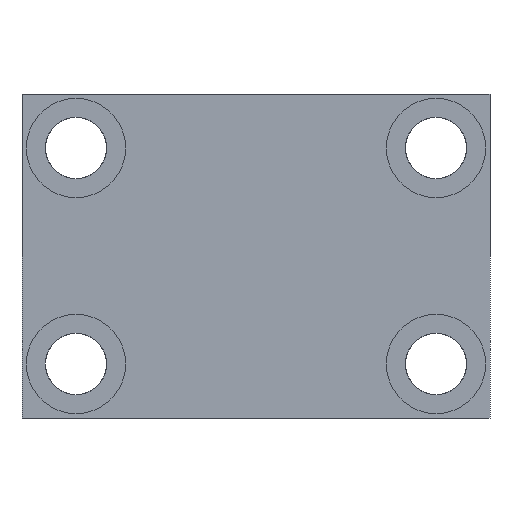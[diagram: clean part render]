
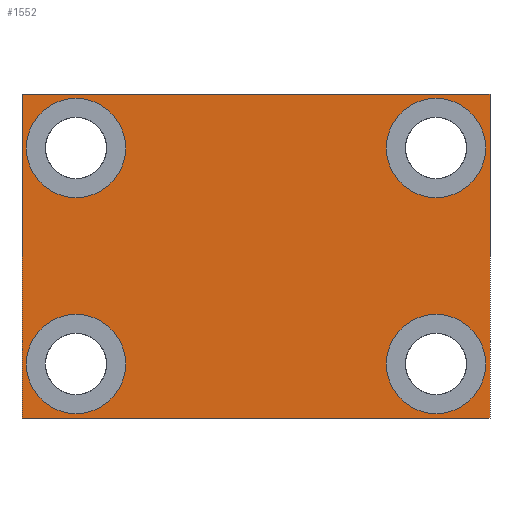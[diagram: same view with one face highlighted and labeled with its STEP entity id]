
A CAD part, front view. The second image highlights one B-rep face of the part: STEP entity #1552.
In plain terms, the highlighted planar face has unit normal (0, -1, 0).
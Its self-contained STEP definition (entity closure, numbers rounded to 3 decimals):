
#3 = DIRECTION ( 'NONE',  ( 0., -1., 0. ) ) ;
#11 = CARTESIAN_POINT ( 'NONE',  ( 25., 0., 15. ) ) ;
#22 = AXIS2_PLACEMENT_3D ( 'NONE', #2790, #2773, #2762 ) ;
#29 = DIRECTION ( 'NONE',  ( 0., 0., -1. ) ) ;
#33 = DIRECTION ( 'NONE',  ( 0., -1., 0. ) ) ;
#51 = CARTESIAN_POINT ( 'NONE',  ( 25., 0., -15. ) ) ;
#54 = AXIS2_PLACEMENT_3D ( 'NONE', #1746, #1783, #1704 ) ;
#114 = DIRECTION ( 'NONE',  ( 0., 0., -1. ) ) ;
#117 = AXIS2_PLACEMENT_3D ( 'NONE', #2748, #2620, #2618 ) ;
#127 = DIRECTION ( 'NONE',  ( 0., -1., 0. ) ) ;
#130 = CARTESIAN_POINT ( 'NONE',  ( -25., 0., -15. ) ) ;
#184 = CARTESIAN_POINT ( 'NONE',  ( -32.5, 0., 22.5 ) ) ;
#189 = DIRECTION ( 'NONE',  ( 1., 0., 0. ) ) ;
#257 = CARTESIAN_POINT ( 'NONE',  ( -32.5, 0., -22.5 ) ) ;
#273 = VERTEX_POINT ( 'NONE', #1114 ) ;
#286 = VERTEX_POINT ( 'NONE', #1127 ) ;
#290 = CARTESIAN_POINT ( 'NONE',  ( -32.5, 0., -22.5 ) ) ;
#297 = DIRECTION ( 'NONE',  ( 0., 0., 1. ) ) ;
#430 = CARTESIAN_POINT ( 'NONE',  ( -25., 0., 8.1 ) ) ;
#464 = DIRECTION ( 'NONE',  ( -1., 0., 0. ) ) ;
#504 = CARTESIAN_POINT ( 'NONE',  ( -25., 0., -21.9 ) ) ;
#519 = ORIENTED_EDGE ( 'NONE', *, *, #2549, .F. ) ;
#540 = CARTESIAN_POINT ( 'NONE',  ( -32.5, 0., -22.5 ) ) ;
#594 = ORIENTED_EDGE ( 'NONE', *, *, #1513, .F. ) ;
#597 = CARTESIAN_POINT ( 'NONE',  ( 32.5, 0., -22.5 ) ) ;
#612 = DIRECTION ( 'NONE',  ( 0., 0., -1. ) ) ;
#629 = VERTEX_POINT ( 'NONE', #2022 ) ;
#802 = CARTESIAN_POINT ( 'NONE',  ( 25., 0., -21.9 ) ) ;
#810 = CIRCLE ( 'NONE', #2033, 6.9 ) ;
#1114 = CARTESIAN_POINT ( 'NONE',  ( 32.5, 0., 22.5 ) ) ;
#1127 = CARTESIAN_POINT ( 'NONE',  ( 25., 0., 21.9 ) ) ;
#1197 = ORIENTED_EDGE ( 'NONE', *, *, #2194, .F. ) ;
#1234 = ORIENTED_EDGE ( 'NONE', *, *, #2393, .F. ) ;
#1312 = CARTESIAN_POINT ( 'NONE',  ( 25., 0., 8.1 ) ) ;
#1323 = AXIS2_PLACEMENT_3D ( 'NONE', #3239, #3237, #3233 ) ;
#1460 = AXIS2_PLACEMENT_3D ( 'NONE', #11, #3, #3468 ) ;
#1478 = VERTEX_POINT ( 'NONE', #2989 ) ;
#1482 = ORIENTED_EDGE ( 'NONE', *, *, #2133, .F. ) ;
#1513 = EDGE_CURVE ( 'NONE', #3131, #2873, #2365, .T. ) ;
#1552 = ADVANCED_FACE ( 'NONE', ( #2203, #2161, #2156, #2152, #2109 ), #2678, .F. ) ;
#1704 = DIRECTION ( 'NONE',  ( 0., 0., -1. ) ) ;
#1746 = CARTESIAN_POINT ( 'NONE',  ( -25., 0., -15. ) ) ;
#1763 = EDGE_LOOP ( 'NONE', ( #3274, #1197 ) ) ;
#1783 = DIRECTION ( 'NONE',  ( 0., -1., 0. ) ) ;
#1858 = ORIENTED_EDGE ( 'NONE', *, *, #1956, .F. ) ;
#1885 = CIRCLE ( 'NONE', #54, 6.9 ) ;
#1943 = DIRECTION ( 'NONE',  ( 0., 0., -1. ) ) ;
#1956 = EDGE_CURVE ( 'NONE', #273, #3114, #3219, .T. ) ;
#1957 = DIRECTION ( 'NONE',  ( 0., -1., 0. ) ) ;
#1963 = CARTESIAN_POINT ( 'NONE',  ( 25., 0., 15. ) ) ;
#1987 = VERTEX_POINT ( 'NONE', #504 ) ;
#1997 = EDGE_CURVE ( 'NONE', #3114, #3288, #3039, .T. ) ;
#2022 = CARTESIAN_POINT ( 'NONE',  ( -25., 0., -8.1 ) ) ;
#2033 = AXIS2_PLACEMENT_3D ( 'NONE', #2816, #2808, #2796 ) ;
#2040 = CARTESIAN_POINT ( 'NONE',  ( -32.5, 0., 22.5 ) ) ;
#2041 = EDGE_CURVE ( 'NONE', #3288, #3287, #2887, .T. ) ;
#2084 = EDGE_CURVE ( 'NONE', #3287, #273, #2926, .T. ) ;
#2096 = EDGE_CURVE ( 'NONE', #1987, #629, #2818, .T. ) ;
#2109 = FACE_OUTER_BOUND ( 'NONE', #2444, .T. ) ;
#2123 = EDGE_CURVE ( 'NONE', #2873, #3131, #2451, .T. ) ;
#2126 = EDGE_CURVE ( 'NONE', #3420, #286, #2501, .T. ) ;
#2133 = EDGE_CURVE ( 'NONE', #2971, #1478, #2375, .T. ) ;
#2152 = FACE_BOUND ( 'NONE', #2646, .T. ) ;
#2156 = FACE_BOUND ( 'NONE', #2685, .T. ) ;
#2161 = FACE_BOUND ( 'NONE', #2679, .T. ) ;
#2194 = EDGE_CURVE ( 'NONE', #629, #1987, #1885, .T. ) ;
#2203 = FACE_BOUND ( 'NONE', #1763, .T. ) ;
#2271 = ORIENTED_EDGE ( 'NONE', *, *, #2084, .F. ) ;
#2281 = ORIENTED_EDGE ( 'NONE', *, *, #2041, .F. ) ;
#2365 = CIRCLE ( 'NONE', #22, 6.9 ) ;
#2375 = CIRCLE ( 'NONE', #1323, 6.9 ) ;
#2393 = EDGE_CURVE ( 'NONE', #1478, #2971, #810, .T. ) ;
#2419 = ORIENTED_EDGE ( 'NONE', *, *, #2126, .F. ) ;
#2444 = EDGE_LOOP ( 'NONE', ( #1858, #2271, #2281, #3303 ) ) ;
#2451 = CIRCLE ( 'NONE', #3180, 6.9 ) ;
#2501 = CIRCLE ( 'NONE', #1460, 6.9 ) ;
#2521 = CARTESIAN_POINT ( 'NONE',  ( 25., 0., -8.1 ) ) ;
#2549 = EDGE_CURVE ( 'NONE', #286, #3420, #2793, .T. ) ;
#2618 = DIRECTION ( 'NONE',  ( 0., 0., 1. ) ) ;
#2620 = DIRECTION ( 'NONE',  ( 0., 1., 0. ) ) ;
#2646 = EDGE_LOOP ( 'NONE', ( #1482, #1234 ) ) ;
#2650 = VECTOR ( 'NONE', #189, 1000. ) ;
#2678 = PLANE ( 'NONE',  #117 ) ;
#2679 = EDGE_LOOP ( 'NONE', ( #3221, #594 ) ) ;
#2685 = EDGE_LOOP ( 'NONE', ( #2419, #519 ) ) ;
#2748 = CARTESIAN_POINT ( 'NONE',  ( 0., 0., 0. ) ) ;
#2762 = DIRECTION ( 'NONE',  ( 0., 0., -1. ) ) ;
#2765 = AXIS2_PLACEMENT_3D ( 'NONE', #1963, #1957, #1943 ) ;
#2773 = DIRECTION ( 'NONE',  ( 0., -1., 0. ) ) ;
#2790 = CARTESIAN_POINT ( 'NONE',  ( 25., 0., -15. ) ) ;
#2793 = CIRCLE ( 'NONE', #2765, 6.9 ) ;
#2796 = DIRECTION ( 'NONE',  ( 0., 0., -1. ) ) ;
#2808 = DIRECTION ( 'NONE',  ( 0., -1., 0. ) ) ;
#2816 = CARTESIAN_POINT ( 'NONE',  ( -25., 0., 15. ) ) ;
#2818 = CIRCLE ( 'NONE', #2875, 6.9 ) ;
#2852 = VECTOR ( 'NONE', #297, 1000. ) ;
#2873 = VERTEX_POINT ( 'NONE', #802 ) ;
#2875 = AXIS2_PLACEMENT_3D ( 'NONE', #130, #127, #114 ) ;
#2887 = LINE ( 'NONE', #290, #2852 ) ;
#2926 = LINE ( 'NONE', #184, #2650 ) ;
#2930 = CARTESIAN_POINT ( 'NONE',  ( 32.5, 0., -22.5 ) ) ;
#2971 = VERTEX_POINT ( 'NONE', #430 ) ;
#2989 = CARTESIAN_POINT ( 'NONE',  ( -25., 0., 21.9 ) ) ;
#3001 = VECTOR ( 'NONE', #464, 1000. ) ;
#3039 = LINE ( 'NONE', #540, #3001 ) ;
#3114 = VERTEX_POINT ( 'NONE', #2930 ) ;
#3131 = VERTEX_POINT ( 'NONE', #2521 ) ;
#3180 = AXIS2_PLACEMENT_3D ( 'NONE', #51, #33, #29 ) ;
#3187 = VECTOR ( 'NONE', #612, 1000. ) ;
#3219 = LINE ( 'NONE', #597, #3187 ) ;
#3221 = ORIENTED_EDGE ( 'NONE', *, *, #2123, .F. ) ;
#3233 = DIRECTION ( 'NONE',  ( 0., 0., -1. ) ) ;
#3237 = DIRECTION ( 'NONE',  ( 0., -1., 0. ) ) ;
#3239 = CARTESIAN_POINT ( 'NONE',  ( -25., 0., 15. ) ) ;
#3274 = ORIENTED_EDGE ( 'NONE', *, *, #2096, .F. ) ;
#3287 = VERTEX_POINT ( 'NONE', #2040 ) ;
#3288 = VERTEX_POINT ( 'NONE', #257 ) ;
#3303 = ORIENTED_EDGE ( 'NONE', *, *, #1997, .F. ) ;
#3420 = VERTEX_POINT ( 'NONE', #1312 ) ;
#3468 = DIRECTION ( 'NONE',  ( 0., 0., -1. ) ) ;
